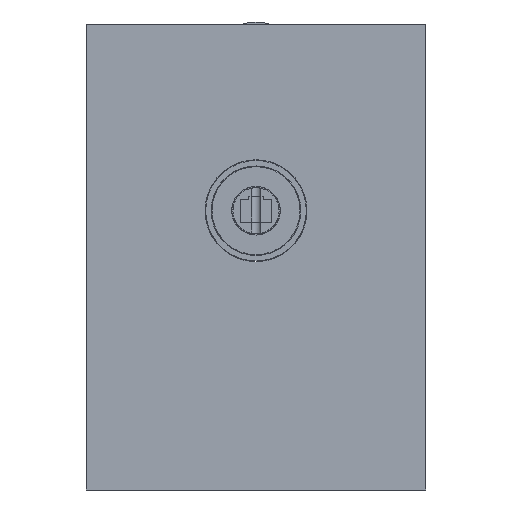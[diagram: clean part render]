
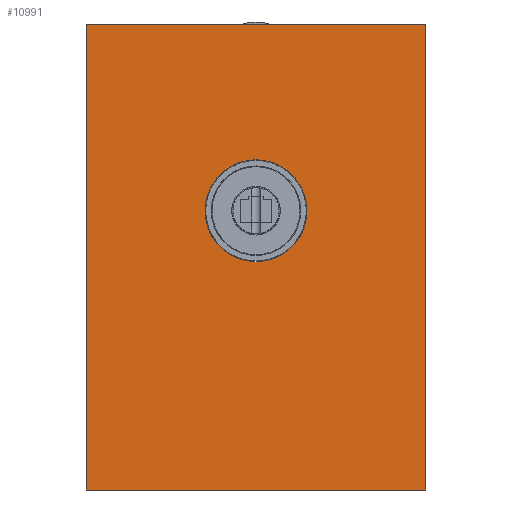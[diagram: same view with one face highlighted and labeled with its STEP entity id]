
A CAD part, front view. The second image highlights one B-rep face of the part: STEP entity #10991.
In plain terms, the highlighted planar face has unit normal (0, -1, 0).
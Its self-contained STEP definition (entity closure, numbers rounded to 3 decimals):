
#10870=DIRECTION('',(0.,0.,-1.));
#10871=VECTOR('',#10870,185.);
#10872=CARTESIAN_POINT('',(67.5,-12.,74.));
#10873=LINE('',#10872,#10871);
#10874=DIRECTION('',(-1.,0.,0.));
#10875=VECTOR('',#10874,135.);
#10876=CARTESIAN_POINT('',(67.5,-12.,-111.));
#10877=LINE('',#10876,#10875);
#10878=DIRECTION('',(0.,0.,1.));
#10879=VECTOR('',#10878,185.);
#10880=CARTESIAN_POINT('',(-67.5,-12.,-111.));
#10881=LINE('',#10880,#10879);
#10882=DIRECTION('',(1.,0.,0.));
#10883=VECTOR('',#10882,135.);
#10884=CARTESIAN_POINT('',(-67.5,-12.,74.));
#10885=LINE('',#10884,#10883);
#10886=CARTESIAN_POINT('',(0.,-12.,0.));
#10887=DIRECTION('',(0.,1.,0.));
#10888=DIRECTION('',(-1.,0.,0.));
#10889=AXIS2_PLACEMENT_3D('',#10886,#10887,#10888);
#10891=CARTESIAN_POINT('',(0.,-12.,0.));
#10892=DIRECTION('',(0.,1.,0.));
#10893=DIRECTION('',(1.,0.,0.));
#10894=AXIS2_PLACEMENT_3D('',#10891,#10892,#10893);
#10946=CARTESIAN_POINT('',(67.5,-12.,74.));
#10947=CARTESIAN_POINT('',(67.5,-12.,-111.));
#10948=VERTEX_POINT('',#10946);
#10949=VERTEX_POINT('',#10947);
#10950=CARTESIAN_POINT('',(-67.5,-12.,-111.));
#10951=VERTEX_POINT('',#10950);
#10952=CARTESIAN_POINT('',(-67.5,-12.,74.));
#10953=VERTEX_POINT('',#10952);
#10962=CARTESIAN_POINT('',(-20.25,-12.,0.));
#10963=CARTESIAN_POINT('',(20.25,-12.,0.));
#10964=VERTEX_POINT('',#10962);
#10965=VERTEX_POINT('',#10963);
#10970=CARTESIAN_POINT('',(0.,-12.,-18.5));
#10971=DIRECTION('',(0.,1.,0.));
#10972=DIRECTION('',(-1.,0.,0.));
#10973=AXIS2_PLACEMENT_3D('',#10970,#10971,#10972);
#10974=PLANE('',#10973);
#10976=ORIENTED_EDGE('',*,*,#10975,.T.);
#10978=ORIENTED_EDGE('',*,*,#10977,.T.);
#10980=ORIENTED_EDGE('',*,*,#10979,.T.);
#10982=ORIENTED_EDGE('',*,*,#10981,.T.);
#10983=EDGE_LOOP('',(#10976,#10978,#10980,#10982));
#10984=FACE_OUTER_BOUND('',#10983,.F.);
#10986=ORIENTED_EDGE('',*,*,#10985,.F.);
#10988=ORIENTED_EDGE('',*,*,#10987,.F.);
#10989=EDGE_LOOP('',(#10986,#10988));
#10990=FACE_BOUND('',#10989,.F.);
#10991=ADVANCED_FACE('',(#10984,#10990),#10974,.F.);
#10890=CIRCLE('',#10889,20.25);
#10895=CIRCLE('',#10894,20.25);
#10975=EDGE_CURVE('',#10948,#10949,#10873,.T.);
#10977=EDGE_CURVE('',#10949,#10951,#10877,.T.);
#10979=EDGE_CURVE('',#10951,#10953,#10881,.T.);
#10981=EDGE_CURVE('',#10953,#10948,#10885,.T.);
#10985=EDGE_CURVE('',#10964,#10965,#10890,.T.);
#10987=EDGE_CURVE('',#10965,#10964,#10895,.T.);
